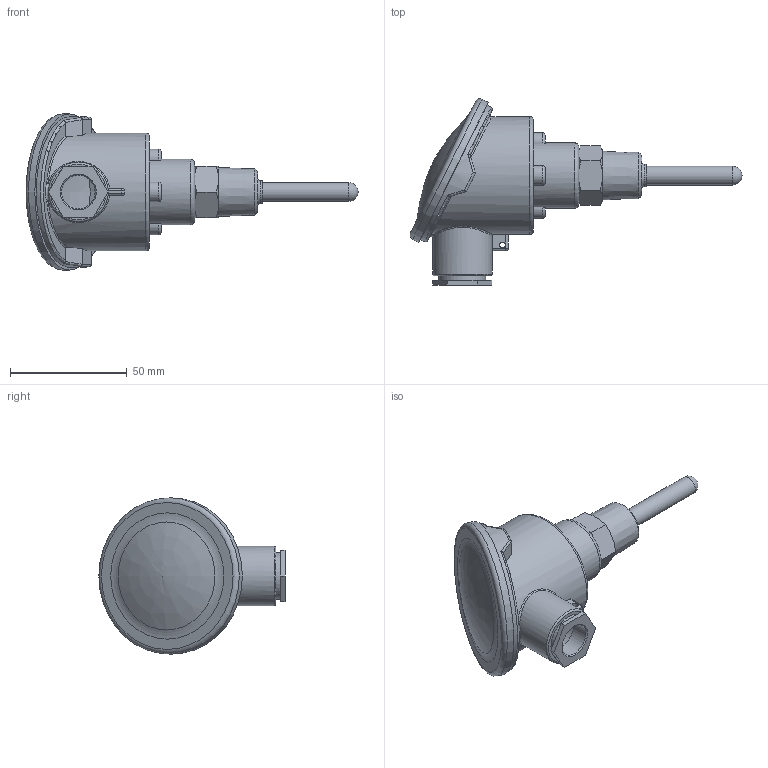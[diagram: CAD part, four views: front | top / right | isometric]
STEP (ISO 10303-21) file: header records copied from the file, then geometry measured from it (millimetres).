
FILE_DESCRIPTION(/* description */ ('Unknown'),/* implementation_level */ '2;1');
FILE_NAME(/* name */ 'TCR6-1720.2106.4013.0510.0060',/* time_stamp */ '2019-01-22T08:21:33+01:00',/* author */ ('Unknown'),/* organization */ ('Unknown'),/* preprocessor_version */ 'ST-DEVELOPER v16.7',/* originating_system */ 'DEX',/* authorisation */ $);
FILE_SCHEMA (('AUTOMOTIVE_DESIGN {1 0 10303 214 3 1 1}'));
Length unit declared in the file: millimetre
Products named in the file (1): Part6
Bounding box: 142.44 x 79.93 x 67 mm (x, y, z)
Volume: 57708.9 mm3; surface area: 36678.4 mm2
Topology: 3 solids, 3 shells, 141 faces, 353 edges, 232 vertices
Faces by surface type: plane 52, cylinder 30, cone 21, bspline 18, torus 16, sphere 4
Full cylindrical faces by diameter (mm): 2.5 x1, 6 x1, 8.1 x3, 8.4 x1, 9.6 x1, 11.2 x1, 13.1 x1, 13.16 x1, 14.376 x1, 15.5 x1, 20 x1, 21 x1, 25.5 x1, 28.2 x1, 47 x1, 50 x1, 50.5 x1, 64.5 x1, 67 x1
Entity records: 5379 total; most frequent: CARTESIAN_POINT 2352, ORIENTED_EDGE 568, DIRECTION 562, EDGE_CURVE 284, AXIS2_PLACEMENT_3D 247, VERTEX_POINT 207, FACE_BOUND 205, EDGE_LOOP 202
